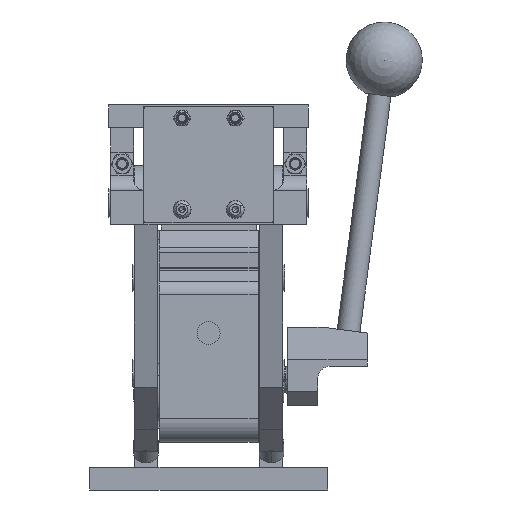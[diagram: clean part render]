
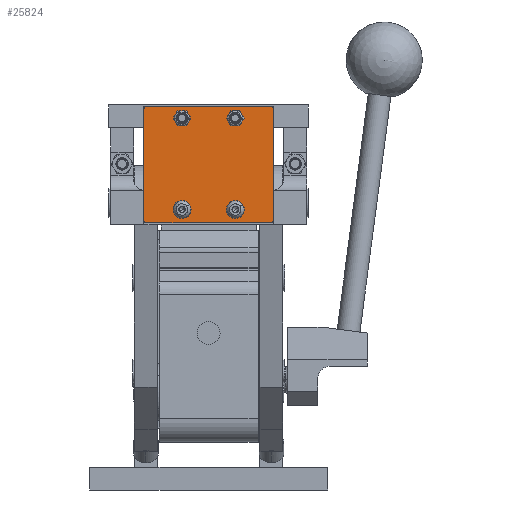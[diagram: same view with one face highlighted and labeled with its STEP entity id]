
A CAD part, left-side view. The second image highlights one B-rep face of the part: STEP entity #25824.
In plain terms, the highlighted planar face has unit normal (-1, 0, 0) as drawn and (0, 0, 1) by its records, which use the part's own axes.
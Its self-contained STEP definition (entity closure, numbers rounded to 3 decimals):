
#222 = CIRCLE ( 'NONE', #11649, 2.75 ) ;
#227 = CARTESIAN_POINT ( 'NONE',  ( -16.75, 8., 32. ) ) ;
#988 = CARTESIAN_POINT ( 'NONE',  ( -33., 61., 32. ) ) ;
#994 = ORIENTED_EDGE ( 'NONE', *, *, #52472, .F. ) ;
#1469 = CARTESIAN_POINT ( 'NONE',  ( 14., 8., 32. ) ) ;
#1859 = EDGE_LOOP ( 'NONE', ( #25681, #44259, #36819, #23307, #63243, #17338, #38562, #33223 ) ) ;
#2302 = DIRECTION ( 'NONE',  ( 0., 0., 1. ) ) ;
#2361 = AXIS2_PLACEMENT_3D ( 'NONE', #63773, #31546, #52649 ) ;
#2809 = VECTOR ( 'NONE', #27155, 1000. ) ;
#3206 = EDGE_CURVE ( 'NONE', #23265, #69017, #42967, .T. ) ;
#4410 = FACE_BOUND ( 'NONE', #43636, .T. ) ;
#5439 = CARTESIAN_POINT ( 'NONE',  ( -34., 61., 32. ) ) ;
#6643 = VERTEX_POINT ( 'NONE', #47358 ) ;
#7446 = CARTESIAN_POINT ( 'NONE',  ( -33., 2., 32. ) ) ;
#7799 = CARTESIAN_POINT ( 'NONE',  ( 11.25, 56., 32. ) ) ;
#9066 = CARTESIAN_POINT ( 'NONE',  ( -33., 1., 32. ) ) ;
#9240 = EDGE_CURVE ( 'NONE', #35958, #35262, #55448, .T. ) ;
#10124 = DIRECTION ( 'NONE',  ( 0., 0., -1. ) ) ;
#10835 = DIRECTION ( 'NONE',  ( 0., 0., 1. ) ) ;
#11216 = DIRECTION ( 'NONE',  ( 1., 0., 0. ) ) ;
#11649 = AXIS2_PLACEMENT_3D ( 'NONE', #44500, #50226, #23072 ) ;
#12129 = CARTESIAN_POINT ( 'NONE',  ( -34., 2., 32. ) ) ;
#12134 = CARTESIAN_POINT ( 'NONE',  ( -16.75, 56., 32. ) ) ;
#12601 = ORIENTED_EDGE ( 'NONE', *, *, #33965, .F. ) ;
#13710 = DIRECTION ( 'NONE',  ( 1., 0., 0. ) ) ;
#14013 = DIRECTION ( 'NONE',  ( 1., 0., 0. ) ) ;
#15048 = AXIS2_PLACEMENT_3D ( 'NONE', #62702, #20462, #13710 ) ;
#15116 = DIRECTION ( 'NONE',  ( -1., 0., 0. ) ) ;
#15393 = ORIENTED_EDGE ( 'NONE', *, *, #15923, .F. ) ;
#15841 = DIRECTION ( 'NONE',  ( 1., 0., 0. ) ) ;
#15923 = EDGE_CURVE ( 'NONE', #22544, #27744, #33164, .T. ) ;
#16061 = AXIS2_PLACEMENT_3D ( 'NONE', #7446, #35667, #30287 ) ;
#16195 = CIRCLE ( 'NONE', #15048, 1. ) ;
#17338 = ORIENTED_EDGE ( 'NONE', *, *, #29703, .T. ) ;
#17855 = DIRECTION ( 'NONE',  ( 0., 1., 0. ) ) ;
#17961 = EDGE_LOOP ( 'NONE', ( #52934, #23120 ) ) ;
#18120 = CARTESIAN_POINT ( 'NONE',  ( -33., 62., 32. ) ) ;
#18357 = AXIS2_PLACEMENT_3D ( 'NONE', #41140, #68312, #62630 ) ;
#18563 = LINE ( 'NONE', #12129, #68783 ) ;
#19366 = CARTESIAN_POINT ( 'NONE',  ( 34., 2., 32. ) ) ;
#20462 = DIRECTION ( 'NONE',  ( 0., 0., 1. ) ) ;
#21073 = CARTESIAN_POINT ( 'NONE',  ( -11.25, 56., 32. ) ) ;
#21734 = DIRECTION ( 'NONE',  ( 0., 0., 1. ) ) ;
#22501 = LINE ( 'NONE', #55348, #2809 ) ;
#22544 = VERTEX_POINT ( 'NONE', #21073 ) ;
#23072 = DIRECTION ( 'NONE',  ( 1., 0., 0. ) ) ;
#23120 = ORIENTED_EDGE ( 'NONE', *, *, #36913, .F. ) ;
#23265 = VERTEX_POINT ( 'NONE', #64985 ) ;
#23307 = ORIENTED_EDGE ( 'NONE', *, *, #26761, .T. ) ;
#24838 = CIRCLE ( 'NONE', #64789, 2.75 ) ;
#24870 = VERTEX_POINT ( 'NONE', #9066 ) ;
#25502 = FACE_BOUND ( 'NONE', #39719, .T. ) ;
#25681 = ORIENTED_EDGE ( 'NONE', *, *, #69722, .T. ) ;
#25824 = ADVANCED_FACE ( 'NONE', ( #25502, #4410, #41230, #53702, #37238 ), #41559, .F. ) ;
#26761 = EDGE_CURVE ( 'NONE', #37062, #23265, #65717, .T. ) ;
#27027 = ORIENTED_EDGE ( 'NONE', *, *, #9240, .F. ) ;
#27155 = DIRECTION ( 'NONE',  ( 1., 0., 0. ) ) ;
#27395 = CIRCLE ( 'NONE', #61626, 2.75 ) ;
#27744 = VERTEX_POINT ( 'NONE', #12134 ) ;
#27768 = EDGE_CURVE ( 'NONE', #35275, #55068, #33961, .T. ) ;
#29030 = DIRECTION ( 'NONE',  ( 0., 0., 1. ) ) ;
#29703 = EDGE_CURVE ( 'NONE', #69017, #55994, #18563, .T. ) ;
#29813 = CIRCLE ( 'NONE', #16061, 1. ) ;
#30287 = DIRECTION ( 'NONE',  ( 1., 0., 0. ) ) ;
#30613 = CARTESIAN_POINT ( 'NONE',  ( 11.25, 8., 32. ) ) ;
#30703 = CARTESIAN_POINT ( 'NONE',  ( 34., 61., 32. ) ) ;
#31546 = DIRECTION ( 'NONE',  ( 0., 0., 1. ) ) ;
#32818 = DIRECTION ( 'NONE',  ( -1., 0., 0. ) ) ;
#33164 = CIRCLE ( 'NONE', #2361, 2.75 ) ;
#33223 = ORIENTED_EDGE ( 'NONE', *, *, #66884, .T. ) ;
#33696 = CARTESIAN_POINT ( 'NONE',  ( 16.75, 56., 32. ) ) ;
#33818 = AXIS2_PLACEMENT_3D ( 'NONE', #1469, #39711, #66917 ) ;
#33961 = LINE ( 'NONE', #66840, #54577 ) ;
#33964 = VERTEX_POINT ( 'NONE', #54410 ) ;
#33965 = EDGE_CURVE ( 'NONE', #35262, #35958, #27395, .T. ) ;
#34479 = EDGE_CURVE ( 'NONE', #61420, #6643, #45678, .T. ) ;
#34706 = CIRCLE ( 'NONE', #55199, 2.75 ) ;
#35262 = VERTEX_POINT ( 'NONE', #35448 ) ;
#35275 = VERTEX_POINT ( 'NONE', #19366 ) ;
#35448 = CARTESIAN_POINT ( 'NONE',  ( 16.75, 8., 32. ) ) ;
#35667 = DIRECTION ( 'NONE',  ( 0., 0., 1. ) ) ;
#35958 = VERTEX_POINT ( 'NONE', #30613 ) ;
#36819 = ORIENTED_EDGE ( 'NONE', *, *, #63477, .T. ) ;
#36913 = EDGE_CURVE ( 'NONE', #62370, #38114, #34706, .T. ) ;
#37062 = VERTEX_POINT ( 'NONE', #46943 ) ;
#37238 = FACE_OUTER_BOUND ( 'NONE', #1859, .T. ) ;
#37402 = AXIS2_PLACEMENT_3D ( 'NONE', #39320, #40392, #62234 ) ;
#38114 = VERTEX_POINT ( 'NONE', #33696 ) ;
#38336 = CARTESIAN_POINT ( 'NONE',  ( 14., 56., 32. ) ) ;
#38505 = EDGE_CURVE ( 'NONE', #6643, #61420, #50933, .T. ) ;
#38562 = ORIENTED_EDGE ( 'NONE', *, *, #41144, .T. ) ;
#38830 = DIRECTION ( 'NONE',  ( -1., 0., 0. ) ) ;
#39320 = CARTESIAN_POINT ( 'NONE',  ( 33., 2., 32. ) ) ;
#39460 = DIRECTION ( 'NONE',  ( 1., 0., 0. ) ) ;
#39696 = CIRCLE ( 'NONE', #37402, 1. ) ;
#39711 = DIRECTION ( 'NONE',  ( 0., 0., 1. ) ) ;
#39719 = EDGE_LOOP ( 'NONE', ( #55715, #45470 ) ) ;
#40392 = DIRECTION ( 'NONE',  ( 0., 0., 1. ) ) ;
#41140 = CARTESIAN_POINT ( 'NONE',  ( -14., 8., 32. ) ) ;
#41144 = EDGE_CURVE ( 'NONE', #55994, #24870, #29813, .T. ) ;
#41230 = FACE_BOUND ( 'NONE', #57348, .T. ) ;
#41559 = PLANE ( 'NONE',  #60723 ) ;
#42967 = CIRCLE ( 'NONE', #44084, 1. ) ;
#43636 = EDGE_LOOP ( 'NONE', ( #12601, #27027 ) ) ;
#44084 = AXIS2_PLACEMENT_3D ( 'NONE', #988, #21734, #32818 ) ;
#44259 = ORIENTED_EDGE ( 'NONE', *, *, #27768, .T. ) ;
#44500 = CARTESIAN_POINT ( 'NONE',  ( -14., 56., 32. ) ) ;
#45470 = ORIENTED_EDGE ( 'NONE', *, *, #34479, .F. ) ;
#45678 = CIRCLE ( 'NONE', #18357, 2.75 ) ;
#46943 = CARTESIAN_POINT ( 'NONE',  ( 33., 62., 32. ) ) ;
#47358 = CARTESIAN_POINT ( 'NONE',  ( -11.25, 8., 32. ) ) ;
#47524 = AXIS2_PLACEMENT_3D ( 'NONE', #63013, #47935, #14013 ) ;
#47629 = CARTESIAN_POINT ( 'NONE',  ( 33., 2., 32. ) ) ;
#47935 = DIRECTION ( 'NONE',  ( 0., 0., 1. ) ) ;
#48478 = VECTOR ( 'NONE', #38830, 1000. ) ;
#49045 = CARTESIAN_POINT ( 'NONE',  ( 14., 8., 32. ) ) ;
#50226 = DIRECTION ( 'NONE',  ( 0., 0., 1. ) ) ;
#50704 = DIRECTION ( 'NONE',  ( 0., -1., 0. ) ) ;
#50933 = CIRCLE ( 'NONE', #47524, 2.75 ) ;
#52472 = EDGE_CURVE ( 'NONE', #27744, #22544, #222, .T. ) ;
#52649 = DIRECTION ( 'NONE',  ( 1., 0., 0. ) ) ;
#52934 = ORIENTED_EDGE ( 'NONE', *, *, #60826, .F. ) ;
#53702 = FACE_BOUND ( 'NONE', #17961, .T. ) ;
#54410 = CARTESIAN_POINT ( 'NONE',  ( 33., 1., 32. ) ) ;
#54577 = VECTOR ( 'NONE', #17855, 1000. ) ;
#55068 = VERTEX_POINT ( 'NONE', #30703 ) ;
#55199 = AXIS2_PLACEMENT_3D ( 'NONE', #62371, #2302, #39460 ) ;
#55348 = CARTESIAN_POINT ( 'NONE',  ( -33., 1., 32. ) ) ;
#55448 = CIRCLE ( 'NONE', #33818, 2.75 ) ;
#55715 = ORIENTED_EDGE ( 'NONE', *, *, #38505, .F. ) ;
#55994 = VERTEX_POINT ( 'NONE', #67552 ) ;
#57348 = EDGE_LOOP ( 'NONE', ( #15393, #994 ) ) ;
#60723 = AXIS2_PLACEMENT_3D ( 'NONE', #47629, #10124, #15116 ) ;
#60826 = EDGE_CURVE ( 'NONE', #38114, #62370, #24838, .T. ) ;
#61420 = VERTEX_POINT ( 'NONE', #227 ) ;
#61626 = AXIS2_PLACEMENT_3D ( 'NONE', #49045, #10835, #15841 ) ;
#62234 = DIRECTION ( 'NONE',  ( -1., 0., 0. ) ) ;
#62370 = VERTEX_POINT ( 'NONE', #7799 ) ;
#62371 = CARTESIAN_POINT ( 'NONE',  ( 14., 56., 32. ) ) ;
#62630 = DIRECTION ( 'NONE',  ( 1., 0., 0. ) ) ;
#62702 = CARTESIAN_POINT ( 'NONE',  ( 33., 61., 32. ) ) ;
#63013 = CARTESIAN_POINT ( 'NONE',  ( -14., 8., 32. ) ) ;
#63243 = ORIENTED_EDGE ( 'NONE', *, *, #3206, .T. ) ;
#63477 = EDGE_CURVE ( 'NONE', #55068, #37062, #16195, .T. ) ;
#63773 = CARTESIAN_POINT ( 'NONE',  ( -14., 56., 32. ) ) ;
#64789 = AXIS2_PLACEMENT_3D ( 'NONE', #38336, #29030, #11216 ) ;
#64985 = CARTESIAN_POINT ( 'NONE',  ( -33., 62., 32. ) ) ;
#65717 = LINE ( 'NONE', #18120, #48478 ) ;
#66840 = CARTESIAN_POINT ( 'NONE',  ( 34., 61., 32. ) ) ;
#66884 = EDGE_CURVE ( 'NONE', #24870, #33964, #22501, .T. ) ;
#66917 = DIRECTION ( 'NONE',  ( 1., 0., 0. ) ) ;
#67552 = CARTESIAN_POINT ( 'NONE',  ( -34., 2., 32. ) ) ;
#68312 = DIRECTION ( 'NONE',  ( 0., 0., 1. ) ) ;
#68783 = VECTOR ( 'NONE', #50704, 1000. ) ;
#69017 = VERTEX_POINT ( 'NONE', #5439 ) ;
#69722 = EDGE_CURVE ( 'NONE', #33964, #35275, #39696, .T. ) ;
